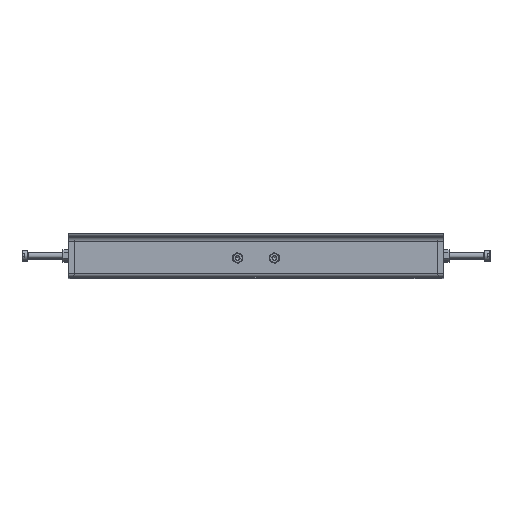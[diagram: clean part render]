
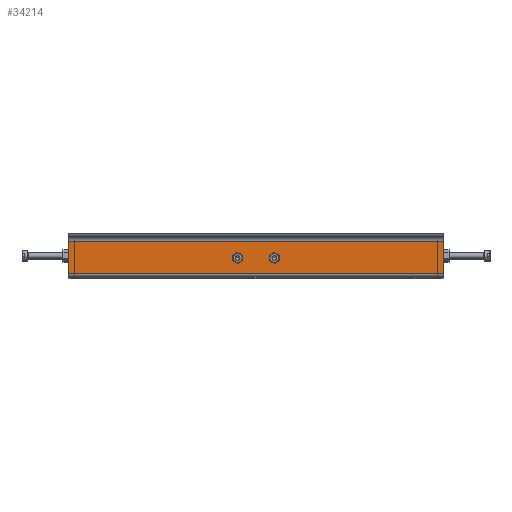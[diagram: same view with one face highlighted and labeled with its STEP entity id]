
A CAD part, top view. The second image highlights one B-rep face of the part: STEP entity #34214.
In plain terms, the highlighted planar face has unit normal (0, 0, 1).
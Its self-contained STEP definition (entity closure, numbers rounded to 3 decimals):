
#5510 = EDGE_CURVE ( 'NONE', #34788, #34794, #9407, .T. ) ;
#5511 = EDGE_CURVE ( 'NONE', #34790, #34788, #9406, .T. ) ;
#5512 = EDGE_CURVE ( 'NONE', #34795, #34790, #9408, .T. ) ;
#5513 = EDGE_CURVE ( 'NONE', #34779, #34795, #9409, .T. ) ;
#5514 = EDGE_CURVE ( 'NONE', #34789, #34779, #9410, .T. ) ;
#5515 = EDGE_CURVE ( 'NONE', #34794, #34789, #9411, .T. ) ;
#5516 = EDGE_CURVE ( 'NONE', #34797, #8731, #13676, .T. ) ;
#5517 = EDGE_CURVE ( 'NONE', #34797, #8813, #13679, .T. ) ;
#5518 = EDGE_CURVE ( 'NONE', #34800, #34801, #13682, .T. ) ;
#5519 = EDGE_CURVE ( 'NONE', #34798, #34800, #13678, .T. ) ;
#5520 = EDGE_CURVE ( 'NONE', #34802, #34798, #13681, .T. ) ;
#5521 = EDGE_CURVE ( 'NONE', #34799, #34802, #13683, .T. ) ;
#5522 = EDGE_CURVE ( 'NONE', #34796, #34799, #13684, .T. ) ;
#5523 = EDGE_CURVE ( 'NONE', #34801, #34796, #13685, .T. ) ;
#5706 = ORIENTED_EDGE ( 'NONE', *, *, #5510, .F. ) ;
#5708 = ORIENTED_EDGE ( 'NONE', *, *, #5511, .F. ) ;
#5710 = ORIENTED_EDGE ( 'NONE', *, *, #5512, .F. ) ;
#5712 = ORIENTED_EDGE ( 'NONE', *, *, #5513, .F. ) ;
#5713 = ORIENTED_EDGE ( 'NONE', *, *, #5514, .F. ) ;
#5714 = ORIENTED_EDGE ( 'NONE', *, *, #5515, .F. ) ;
#5715 = ORIENTED_EDGE ( 'NONE', *, *, #33029, .T. ) ;
#5716 = ORIENTED_EDGE ( 'NONE', *, *, #32908, .T. ) ;
#5717 = ORIENTED_EDGE ( 'NONE', *, *, #5516, .F. ) ;
#5718 = ORIENTED_EDGE ( 'NONE', *, *, #5517, .T. ) ;
#5719 = ORIENTED_EDGE ( 'NONE', *, *, #5518, .F. ) ;
#5720 = ORIENTED_EDGE ( 'NONE', *, *, #5519, .F. ) ;
#5721 = ORIENTED_EDGE ( 'NONE', *, *, #5520, .F. ) ;
#5723 = ORIENTED_EDGE ( 'NONE', *, *, #5521, .F. ) ;
#5725 = ORIENTED_EDGE ( 'NONE', *, *, #5522, .F. ) ;
#5726 = ORIENTED_EDGE ( 'NONE', *, *, #5523, .F. ) ;
#8731 = VERTEX_POINT ( 'NONE', #24072 ) ;
#8741 = VERTEX_POINT ( 'NONE', #24082 ) ;
#8813 = VERTEX_POINT ( 'NONE', #24154 ) ;
#9406 = CIRCLE ( 'NONE', #11722, 6.5 ) ;
#9407 = CIRCLE ( 'NONE', #11721, 6.5 ) ;
#9408 = CIRCLE ( 'NONE', #11723, 6.5 ) ;
#9409 = CIRCLE ( 'NONE', #11724, 6.5 ) ;
#9410 = CIRCLE ( 'NONE', #11725, 6.5 ) ;
#9411 = CIRCLE ( 'NONE', #11726, 6.5 ) ;
#10080 = LINE ( 'NONE', #12842, #10082 ) ;
#10082 = VECTOR ( 'NONE', #12843, 1000. ) ;
#10229 = LINE ( 'NONE', #13259, #10230 ) ;
#10230 = VECTOR ( 'NONE', #13260, 1000. ) ;
#11652 = DIRECTION ( 'NONE',  ( 0., 0., 1. ) ) ;
#11721 = AXIS2_PLACEMENT_3D ( 'NONE', #12665, #12666, #12667 ) ;
#11722 = AXIS2_PLACEMENT_3D ( 'NONE', #12668, #12669, #12670 ) ;
#11723 = AXIS2_PLACEMENT_3D ( 'NONE', #12671, #12672, #12673 ) ;
#11724 = AXIS2_PLACEMENT_3D ( 'NONE', #12674, #12675, #12676 ) ;
#11725 = AXIS2_PLACEMENT_3D ( 'NONE', #12677, #12678, #12679 ) ;
#11726 = AXIS2_PLACEMENT_3D ( 'NONE', #12682, #12683, #12684 ) ;
#11727 = AXIS2_PLACEMENT_3D ( 'NONE', #12686, #12687, #12688 ) ;
#11728 = AXIS2_PLACEMENT_3D ( 'NONE', #12689, #12690, #12691 ) ;
#11729 = AXIS2_PLACEMENT_3D ( 'NONE', #12692, #12693, #12694 ) ;
#11730 = AXIS2_PLACEMENT_3D ( 'NONE', #12695, #12696, #12697 ) ;
#11731 = AXIS2_PLACEMENT_3D ( 'NONE', #12698, #11652, #14224 ) ;
#11732 = AXIS2_PLACEMENT_3D ( 'NONE', #14227, #14229, #14230 ) ;
#12658 = DIRECTION ( 'NONE',  ( 1., 0., 0. ) ) ;
#12665 = CARTESIAN_POINT ( 'NONE',  ( -25., -33.824, 605. ) ) ;
#12666 = DIRECTION ( 'NONE',  ( 0., 0., 1. ) ) ;
#12667 = DIRECTION ( 'NONE',  ( -1., 0., 0. ) ) ;
#12668 = CARTESIAN_POINT ( 'NONE',  ( -25., -33.824, 605. ) ) ;
#12669 = DIRECTION ( 'NONE',  ( 0., 0., 1. ) ) ;
#12670 = DIRECTION ( 'NONE',  ( -1., 0., 0. ) ) ;
#12671 = CARTESIAN_POINT ( 'NONE',  ( -25., -33.824, 605. ) ) ;
#12672 = DIRECTION ( 'NONE',  ( 0., 0., 1. ) ) ;
#12673 = DIRECTION ( 'NONE',  ( 1., 0., 0. ) ) ;
#12674 = CARTESIAN_POINT ( 'NONE',  ( -25., -33.824, 605. ) ) ;
#12675 = DIRECTION ( 'NONE',  ( 0., 0., 1. ) ) ;
#12676 = DIRECTION ( 'NONE',  ( -1., 0., 0. ) ) ;
#12677 = CARTESIAN_POINT ( 'NONE',  ( -25., -33.824, 605. ) ) ;
#12678 = DIRECTION ( 'NONE',  ( 0., 0., 1. ) ) ;
#12679 = DIRECTION ( 'NONE',  ( -1., 0., 0. ) ) ;
#12680 = CARTESIAN_POINT ( 'NONE',  ( -255., -55., 605. ) ) ;
#12681 = CARTESIAN_POINT ( 'NONE',  ( -255., -11., 605. ) ) ;
#12682 = CARTESIAN_POINT ( 'NONE',  ( -25., -33.824, 605. ) ) ;
#12683 = DIRECTION ( 'NONE',  ( 0., 0., 1. ) ) ;
#12684 = DIRECTION ( 'NONE',  ( -1., 0., 0. ) ) ;
#12685 = DIRECTION ( 'NONE',  ( 0., -1., 0. ) ) ;
#12686 = CARTESIAN_POINT ( 'NONE',  ( 25., -33.824, 605. ) ) ;
#12687 = DIRECTION ( 'NONE',  ( 0., 0., 1. ) ) ;
#12688 = DIRECTION ( 'NONE',  ( -1., 0., 0. ) ) ;
#12689 = CARTESIAN_POINT ( 'NONE',  ( 25., -33.824, 605. ) ) ;
#12690 = DIRECTION ( 'NONE',  ( 0., 0., 1. ) ) ;
#12691 = DIRECTION ( 'NONE',  ( -1., 0., 0. ) ) ;
#12692 = CARTESIAN_POINT ( 'NONE',  ( 25., -33.824, 605. ) ) ;
#12693 = DIRECTION ( 'NONE',  ( 0., 0., 1. ) ) ;
#12694 = DIRECTION ( 'NONE',  ( 1., 0., 0. ) ) ;
#12695 = CARTESIAN_POINT ( 'NONE',  ( 25., -33.824, 605. ) ) ;
#12696 = DIRECTION ( 'NONE',  ( 0., 0., 1. ) ) ;
#12697 = DIRECTION ( 'NONE',  ( -1., 0., 0. ) ) ;
#12698 = CARTESIAN_POINT ( 'NONE',  ( 25., -33.824, 605. ) ) ;
#12842 = CARTESIAN_POINT ( 'NONE',  ( 255., -55., 605. ) ) ;
#12843 = DIRECTION ( 'NONE',  ( 0., 1., 0. ) ) ;
#13259 = CARTESIAN_POINT ( 'NONE',  ( -255., -55., 605. ) ) ;
#13260 = DIRECTION ( 'NONE',  ( 1., 0., 0. ) ) ;
#13676 = LINE ( 'NONE', #12681, #13677 ) ;
#13677 = VECTOR ( 'NONE', #12658, 1000. ) ;
#13678 = CIRCLE ( 'NONE', #11728, 6.5 ) ;
#13679 = LINE ( 'NONE', #12680, #13680 ) ;
#13680 = VECTOR ( 'NONE', #12685, 1000. ) ;
#13681 = CIRCLE ( 'NONE', #11729, 6.5 ) ;
#13682 = CIRCLE ( 'NONE', #11727, 6.5 ) ;
#13683 = CIRCLE ( 'NONE', #11730, 6.5 ) ;
#13684 = CIRCLE ( 'NONE', #11731, 6.5 ) ;
#13685 = CIRCLE ( 'NONE', #11732, 6.5 ) ;
#14224 = DIRECTION ( 'NONE',  ( -1., 0., 0. ) ) ;
#14227 = CARTESIAN_POINT ( 'NONE',  ( 25., -33.824, 605. ) ) ;
#14229 = DIRECTION ( 'NONE',  ( 0., 0., 1. ) ) ;
#14230 = DIRECTION ( 'NONE',  ( -1., 0., 0. ) ) ;
#21958 = AXIS2_PLACEMENT_3D ( 'NONE', #27240, #27241, #27242 ) ;
#24072 = CARTESIAN_POINT ( 'NONE',  ( 255., -11., 605. ) ) ;
#24082 = CARTESIAN_POINT ( 'NONE',  ( 255., -55., 605. ) ) ;
#24154 = CARTESIAN_POINT ( 'NONE',  ( -255., -55., 605. ) ) ;
#26572 = FACE_BOUND ( 'NONE', #32534, .T. ) ;
#26574 = FACE_BOUND ( 'NONE', #32528, .T. ) ;
#26577 = FACE_OUTER_BOUND ( 'NONE', #32538, .T. ) ;
#27230 = PLANE ( 'NONE',  #21958 ) ;
#27240 = CARTESIAN_POINT ( 'NONE',  ( -255., -55., 605. ) ) ;
#27241 = DIRECTION ( 'NONE',  ( 0., 0., 1. ) ) ;
#27242 = DIRECTION ( 'NONE',  ( -1., 0., 0. ) ) ;
#27987 = CARTESIAN_POINT ( 'NONE',  ( -21.75, -39.453, 605. ) ) ;
#27996 = CARTESIAN_POINT ( 'NONE',  ( -28.25, -28.194, 605. ) ) ;
#27997 = CARTESIAN_POINT ( 'NONE',  ( -28.25, -39.453, 605. ) ) ;
#27998 = CARTESIAN_POINT ( 'NONE',  ( -21.75, -28.194, 605. ) ) ;
#28002 = CARTESIAN_POINT ( 'NONE',  ( -31.5, -33.824, 605. ) ) ;
#28003 = CARTESIAN_POINT ( 'NONE',  ( -18.5, -33.824, 605. ) ) ;
#28004 = CARTESIAN_POINT ( 'NONE',  ( 21.75, -39.453, 605. ) ) ;
#28005 = CARTESIAN_POINT ( 'NONE',  ( -255., -11., 605. ) ) ;
#28006 = CARTESIAN_POINT ( 'NONE',  ( 28.25, -28.194, 605. ) ) ;
#28007 = CARTESIAN_POINT ( 'NONE',  ( 28.25, -39.453, 605. ) ) ;
#28008 = CARTESIAN_POINT ( 'NONE',  ( 21.75, -28.194, 605. ) ) ;
#28009 = CARTESIAN_POINT ( 'NONE',  ( 18.5, -33.824, 605. ) ) ;
#28010 = CARTESIAN_POINT ( 'NONE',  ( 31.5, -33.824, 605. ) ) ;
#32528 = EDGE_LOOP ( 'NONE', ( #5719, #5720, #5721, #5723, #5725, #5726 ) ) ;
#32534 = EDGE_LOOP ( 'NONE', ( #5706, #5708, #5710, #5712, #5713, #5714 ) ) ;
#32538 = EDGE_LOOP ( 'NONE', ( #5715, #5716, #5717, #5718 ) ) ;
#32908 = EDGE_CURVE ( 'NONE', #8741, #8731, #10080, .T. ) ;
#33029 = EDGE_CURVE ( 'NONE', #8813, #8741, #10229, .T. ) ;
#34214 = ADVANCED_FACE ( 'NONE', ( #26572, #26577, #26574 ), #27230, .T. ) ;
#34779 = VERTEX_POINT ( 'NONE', #27987 ) ;
#34788 = VERTEX_POINT ( 'NONE', #27996 ) ;
#34789 = VERTEX_POINT ( 'NONE', #27997 ) ;
#34790 = VERTEX_POINT ( 'NONE', #27998 ) ;
#34794 = VERTEX_POINT ( 'NONE', #28002 ) ;
#34795 = VERTEX_POINT ( 'NONE', #28003 ) ;
#34796 = VERTEX_POINT ( 'NONE', #28004 ) ;
#34797 = VERTEX_POINT ( 'NONE', #28005 ) ;
#34798 = VERTEX_POINT ( 'NONE', #28006 ) ;
#34799 = VERTEX_POINT ( 'NONE', #28007 ) ;
#34800 = VERTEX_POINT ( 'NONE', #28008 ) ;
#34801 = VERTEX_POINT ( 'NONE', #28009 ) ;
#34802 = VERTEX_POINT ( 'NONE', #28010 ) ;
